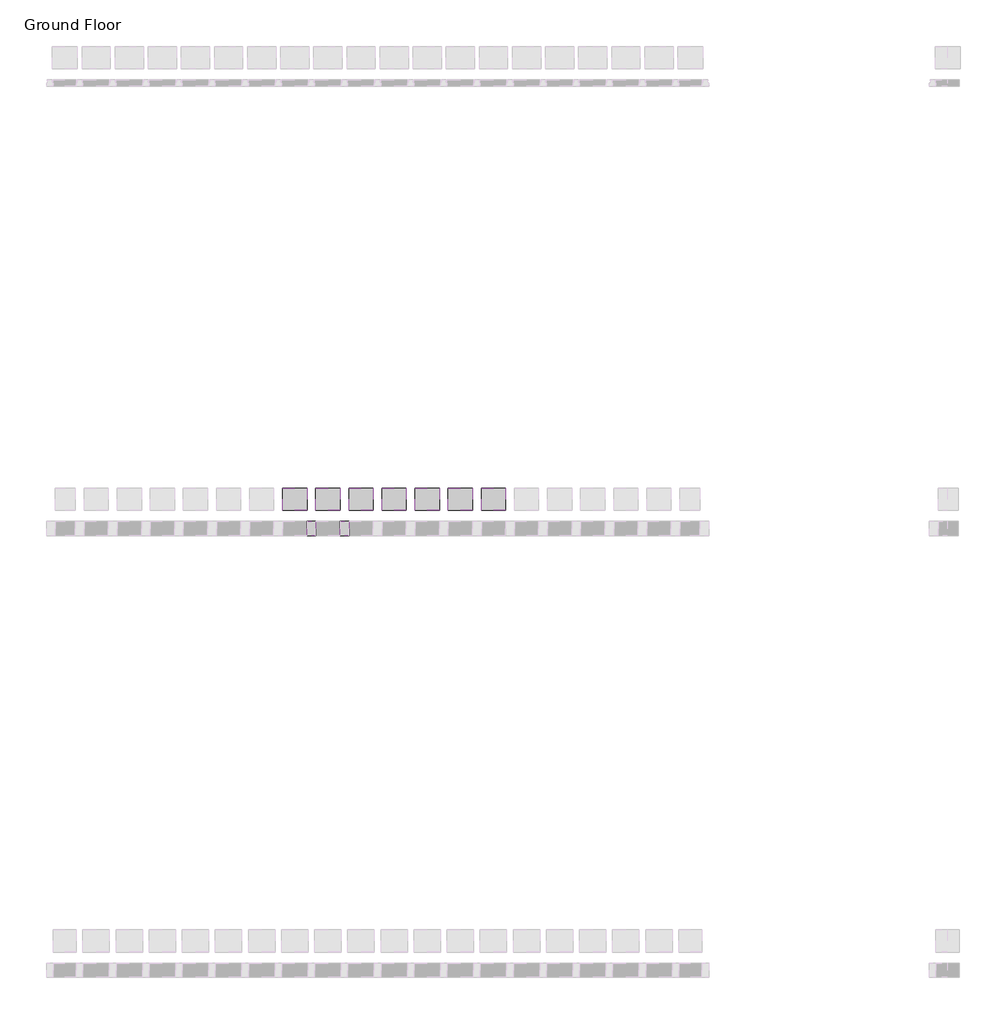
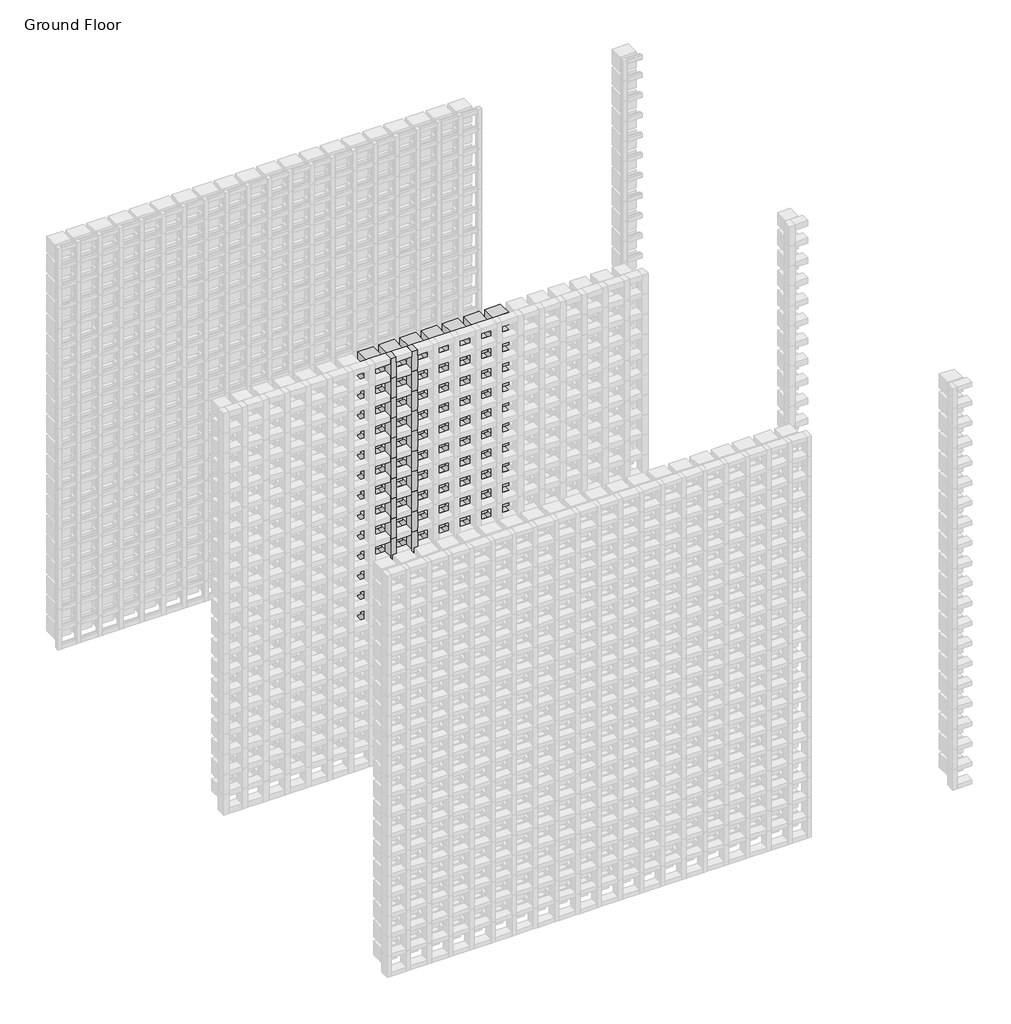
# One storey, part 83 of 350: 102 plates, 39 members.
"""IFC4 building model written with IfcOpenShell, lengths in millimetres."""

from ifc_helpers import new_model, si_unit, origin, place, context, project, spatial, transform, mapped, element, save
from components import rectangular_mullion_655930e9, empty_system_panel_empty_3b500fad, empty_system_panel_empty_1faefc6a

model = new_model("IFC4")

# Units and contexts
model_context = context("Model", 3, world=origin())
ifc_project = project(units=[si_unit("LENGTHUNIT", "METRE", prefix="MILLI")], contexts=[model_context])

# Site, building, storey
site = spatial("IfcSite", under=ifc_project)
building = spatial("IfcBuilding", under=site)
storey = spatial("IfcBuildingStorey", under=building, Name="Ground Floor", Elevation=0.0)

# Members
placement = place(None, origin())
rectangular_mullion_shape = rectangular_mullion_655930e9(model_context)
element("IfcMember", 1, ObjectType="Rectangular Mullion : Batten_Timber_Modinex_Austratus_Grid_Fascia_40x65_AlaskanYellowCedar", at=placement, inside=storey, context=model_context, shape_type="MappedRepresentation", body=[
    mapped(rectangular_mullion_shape, transform((3116.4361642, 40968.2978302, 150.0), x_axis=(1.0, 0.0, 0.0), y_axis=(0.0, -1.0, 0.0), z_axis=(0.0, 0.0, -1.0))),
])
element("IfcMember", 2, ObjectType="Rectangular Mullion : Batten_Timber_Modinex_Austratus_Grid_Fascia_40x65_AlaskanYellowCedar", at=placement, inside=storey, context=model_context, shape_type="MappedRepresentation", body=[
    mapped(rectangular_mullion_shape, transform((3116.4361642, 40968.2978302, 300.0), x_axis=(1.0, 0.0, 0.0), y_axis=(0.0, -1.0, 0.0), z_axis=(0.0, 0.0, -1.0))),
])
element("IfcMember", 3, ObjectType="Rectangular Mullion : Batten_Timber_Modinex_Austratus_Grid_Fascia_40x65_AlaskanYellowCedar", at=placement, inside=storey, context=model_context, shape_type="MappedRepresentation", body=[
    mapped(rectangular_mullion_shape, transform((3116.4361642, 40968.2978302, 450.0), x_axis=(1.0, 0.0, 0.0), y_axis=(0.0, -1.0, 0.0), z_axis=(0.0, 0.0, -1.0))),
])
element("IfcMember", 4, ObjectType="Rectangular Mullion : Batten_Timber_Modinex_Austratus_Grid_Fascia_40x65_AlaskanYellowCedar", at=placement, inside=storey, context=model_context, shape_type="MappedRepresentation", body=[
    mapped(rectangular_mullion_shape, transform((3116.4361642, 40968.2978302, 600.0), x_axis=(1.0, 0.0, 0.0), y_axis=(0.0, -1.0, 0.0), z_axis=(0.0, 0.0, -1.0))),
])
element("IfcMember", 5, ObjectType="Rectangular Mullion : Batten_Timber_Modinex_Austratus_Grid_Fascia_40x65_AlaskanYellowCedar", at=placement, inside=storey, context=model_context, shape_type="MappedRepresentation", body=[
    mapped(rectangular_mullion_shape, transform((3116.4361642, 40968.2978302, 750.0), x_axis=(1.0, 0.0, 0.0), y_axis=(0.0, -1.0, 0.0), z_axis=(0.0, 0.0, -1.0))),
])
element("IfcMember", 6, ObjectType="Rectangular Mullion : Batten_Timber_Modinex_Austratus_Grid_Fascia_40x65_AlaskanYellowCedar", at=placement, inside=storey, context=model_context, shape_type="MappedRepresentation", body=[
    mapped(rectangular_mullion_shape, transform((3116.4361642, 40968.2978302, 900.0), x_axis=(1.0, 0.0, 0.0), y_axis=(0.0, -1.0, 0.0), z_axis=(0.0, 0.0, -1.0))),
])
element("IfcMember", 7, ObjectType="Rectangular Mullion : Batten_Timber_Modinex_Austratus_Grid_Fascia_40x65_AlaskanYellowCedar", at=placement, inside=storey, context=model_context, shape_type="MappedRepresentation", body=[
    mapped(rectangular_mullion_shape, transform((3116.4361642, 40968.2978302, 1050.0), x_axis=(1.0, 0.0, 0.0), y_axis=(0.0, -1.0, 0.0), z_axis=(0.0, 0.0, -1.0))),
])
element("IfcMember", 8, ObjectType="Rectangular Mullion : Batten_Timber_Modinex_Austratus_Grid_Fascia_40x65_AlaskanYellowCedar", at=placement, inside=storey, context=model_context, shape_type="MappedRepresentation", body=[
    mapped(rectangular_mullion_shape, transform((3116.4361642, 40968.2978302, 1200.0), x_axis=(1.0, 0.0, 0.0), y_axis=(0.0, -1.0, 0.0), z_axis=(0.0, 0.0, -1.0))),
])
element("IfcMember", 9, ObjectType="Rectangular Mullion : Batten_Timber_Modinex_Austratus_Grid_Fascia_40x65_AlaskanYellowCedar", at=placement, inside=storey, context=model_context, shape_type="MappedRepresentation", body=[
    mapped(rectangular_mullion_shape, transform((3116.4361642, 40968.2978302, 1350.0), x_axis=(1.0, 0.0, 0.0), y_axis=(0.0, -1.0, 0.0), z_axis=(0.0, 0.0, -1.0))),
])
element("IfcMember", 10, ObjectType="Rectangular Mullion : Batten_Timber_Modinex_Austratus_Grid_Fascia_40x65_AlaskanYellowCedar", at=placement, inside=storey, context=model_context, shape_type="MappedRepresentation", body=[
    mapped(rectangular_mullion_shape, transform((3116.4361642, 40968.2978302, 1500.0), x_axis=(1.0, 0.0, 0.0), y_axis=(0.0, -1.0, 0.0), z_axis=(0.0, 0.0, -1.0))),
])
element("IfcMember", 11, ObjectType="Rectangular Mullion : Batten_Timber_Modinex_Austratus_Grid_Fascia_40x65_AlaskanYellowCedar", at=placement, inside=storey, context=model_context, shape_type="MappedRepresentation", body=[
    mapped(rectangular_mullion_shape, transform((3116.4361642, 40968.2978302, 1650.0), x_axis=(1.0, 0.0, 0.0), y_axis=(0.0, -1.0, 0.0), z_axis=(0.0, 0.0, -1.0))),
])
element("IfcMember", 12, ObjectType="Rectangular Mullion : Batten_Timber_Modinex_Austratus_Grid_Fascia_40x65_AlaskanYellowCedar", at=placement, inside=storey, context=model_context, shape_type="MappedRepresentation", body=[
    mapped(rectangular_mullion_shape, transform((3116.4361642, 40968.2978302, 1800.0), x_axis=(1.0, 0.0, 0.0), y_axis=(0.0, -1.0, 0.0), z_axis=(0.0, 0.0, -1.0))),
])
element("IfcMember", 13, ObjectType="Rectangular Mullion : Batten_Timber_Modinex_Austratus_Grid_Fascia_40x65_AlaskanYellowCedar", at=placement, inside=storey, context=model_context, shape_type="MappedRepresentation", body=[
    mapped(rectangular_mullion_shape, transform((3116.4361642, 40968.2978302, 1950.0), x_axis=(1.0, 0.0, 0.0), y_axis=(0.0, -1.0, 0.0), z_axis=(0.0, 0.0, -1.0))),
])
element("IfcMember", 14, ObjectType="Rectangular Mullion : Batten_Timber_Modinex_Austratus_Grid_Fascia_40x65_AlaskanYellowCedar", at=placement, inside=storey, context=model_context, shape_type="MappedRepresentation", body=[
    mapped(rectangular_mullion_shape, transform((3116.4361642, 40968.2978302, 2100.0), x_axis=(1.0, 0.0, 0.0), y_axis=(0.0, -1.0, 0.0), z_axis=(0.0, 0.0, -1.0))),
])
element("IfcMember", 15, ObjectType="Rectangular Mullion : Batten_Timber_Modinex_Austratus_Grid_Fascia_40x65_AlaskanYellowCedar", at=placement, inside=storey, context=model_context, shape_type="MappedRepresentation", body=[
    mapped(rectangular_mullion_shape, transform((3116.4361642, 40968.2978302, 2250.0), x_axis=(1.0, 0.0, 0.0), y_axis=(0.0, -1.0, 0.0), z_axis=(0.0, 0.0, -1.0))),
])
element("IfcMember", 16, ObjectType="Rectangular Mullion : Batten_Timber_Modinex_Austratus_Grid_Fascia_40x65_AlaskanYellowCedar", at=placement, inside=storey, context=model_context, shape_type="MappedRepresentation", body=[
    mapped(rectangular_mullion_shape, transform((3116.4361642, 40968.2978302, 2400.0), x_axis=(1.0, 0.0, 0.0), y_axis=(0.0, -1.0, 0.0), z_axis=(0.0, 0.0, -1.0))),
])
element("IfcMember", 17, ObjectType="Rectangular Mullion : Batten_Timber_Modinex_Austratus_Grid_Fascia_40x65_AlaskanYellowCedar", at=placement, inside=storey, context=model_context, shape_type="MappedRepresentation", body=[
    mapped(rectangular_mullion_shape, transform((3116.4361642, 40968.2978302, 2550.0), x_axis=(1.0, 0.0, 0.0), y_axis=(0.0, -1.0, 0.0), z_axis=(0.0, 0.0, -1.0))),
])
element("IfcMember", 18, ObjectType="Rectangular Mullion : Batten_Timber_Modinex_Austratus_Grid_Fascia_40x65_AlaskanYellowCedar", at=placement, inside=storey, context=model_context, shape_type="MappedRepresentation", body=[
    mapped(rectangular_mullion_shape, transform((3116.4361642, 40968.2978302, 2700.0), x_axis=(1.0, 0.0, 0.0), y_axis=(0.0, -1.0, 0.0), z_axis=(0.0, 0.0, -1.0))),
])
element("IfcMember", 19, ObjectType="Rectangular Mullion : Batten_Timber_Modinex_Austratus_Grid_Fascia_40x65_AlaskanYellowCedar", at=placement, inside=storey, context=model_context, shape_type="MappedRepresentation", body=[
    mapped(rectangular_mullion_shape, transform((3266.4361642, 40968.2978302, 150.0), x_axis=(1.0, 0.0, 0.0), y_axis=(0.0, -1.0, 0.0), z_axis=(0.0, 0.0, -1.0))),
])
element("IfcMember", 20, ObjectType="Rectangular Mullion : Batten_Timber_Modinex_Austratus_Grid_Fascia_40x65_AlaskanYellowCedar", at=placement, inside=storey, context=model_context, shape_type="MappedRepresentation", body=[
    mapped(rectangular_mullion_shape, transform((3266.4361642, 40968.2978302, 300.0), x_axis=(1.0, 0.0, 0.0), y_axis=(0.0, -1.0, 0.0), z_axis=(0.0, 0.0, -1.0))),
])
element("IfcMember", 21, ObjectType="Rectangular Mullion : Batten_Timber_Modinex_Austratus_Grid_Fascia_40x65_AlaskanYellowCedar", at=placement, inside=storey, context=model_context, shape_type="MappedRepresentation", body=[
    mapped(rectangular_mullion_shape, transform((3266.4361642, 40968.2978302, 450.0), x_axis=(1.0, 0.0, 0.0), y_axis=(0.0, -1.0, 0.0), z_axis=(0.0, 0.0, -1.0))),
])
element("IfcMember", 22, ObjectType="Rectangular Mullion : Batten_Timber_Modinex_Austratus_Grid_Fascia_40x65_AlaskanYellowCedar", at=placement, inside=storey, context=model_context, shape_type="MappedRepresentation", body=[
    mapped(rectangular_mullion_shape, transform((3266.4361642, 40968.2978302, 600.0), x_axis=(1.0, 0.0, 0.0), y_axis=(0.0, -1.0, 0.0), z_axis=(0.0, 0.0, -1.0))),
])
element("IfcMember", 23, ObjectType="Rectangular Mullion : Batten_Timber_Modinex_Austratus_Grid_Fascia_40x65_AlaskanYellowCedar", at=placement, inside=storey, context=model_context, shape_type="MappedRepresentation", body=[
    mapped(rectangular_mullion_shape, transform((3266.4361642, 40968.2978302, 750.0), x_axis=(1.0, 0.0, 0.0), y_axis=(0.0, -1.0, 0.0), z_axis=(0.0, 0.0, -1.0))),
])
element("IfcMember", 24, ObjectType="Rectangular Mullion : Batten_Timber_Modinex_Austratus_Grid_Fascia_40x65_AlaskanYellowCedar", at=placement, inside=storey, context=model_context, shape_type="MappedRepresentation", body=[
    mapped(rectangular_mullion_shape, transform((3266.4361642, 40968.2978302, 900.0), x_axis=(1.0, 0.0, 0.0), y_axis=(0.0, -1.0, 0.0), z_axis=(0.0, 0.0, -1.0))),
])
element("IfcMember", 25, ObjectType="Rectangular Mullion : Batten_Timber_Modinex_Austratus_Grid_Fascia_40x65_AlaskanYellowCedar", at=placement, inside=storey, context=model_context, shape_type="MappedRepresentation", body=[
    mapped(rectangular_mullion_shape, transform((3266.4361642, 40968.2978302, 1050.0), x_axis=(1.0, 0.0, 0.0), y_axis=(0.0, -1.0, 0.0), z_axis=(0.0, 0.0, -1.0))),
])
element("IfcMember", 26, ObjectType="Rectangular Mullion : Batten_Timber_Modinex_Austratus_Grid_Fascia_40x65_AlaskanYellowCedar", at=placement, inside=storey, context=model_context, shape_type="MappedRepresentation", body=[
    mapped(rectangular_mullion_shape, transform((3266.4361642, 40968.2978302, 1200.0), x_axis=(1.0, 0.0, 0.0), y_axis=(0.0, -1.0, 0.0), z_axis=(0.0, 0.0, -1.0))),
])
element("IfcMember", 27, ObjectType="Rectangular Mullion : Batten_Timber_Modinex_Austratus_Grid_Fascia_40x65_AlaskanYellowCedar", at=placement, inside=storey, context=model_context, shape_type="MappedRepresentation", body=[
    mapped(rectangular_mullion_shape, transform((3266.4361642, 40968.2978302, 1350.0), x_axis=(1.0, 0.0, 0.0), y_axis=(0.0, -1.0, 0.0), z_axis=(0.0, 0.0, -1.0))),
])
element("IfcMember", 28, ObjectType="Rectangular Mullion : Batten_Timber_Modinex_Austratus_Grid_Fascia_40x65_AlaskanYellowCedar", at=placement, inside=storey, context=model_context, shape_type="MappedRepresentation", body=[
    mapped(rectangular_mullion_shape, transform((3266.4361642, 40968.2978302, 1500.0), x_axis=(1.0, 0.0, 0.0), y_axis=(0.0, -1.0, 0.0), z_axis=(0.0, 0.0, -1.0))),
])
element("IfcMember", 29, ObjectType="Rectangular Mullion : Batten_Timber_Modinex_Austratus_Grid_Fascia_40x65_AlaskanYellowCedar", at=placement, inside=storey, context=model_context, shape_type="MappedRepresentation", body=[
    mapped(rectangular_mullion_shape, transform((3266.4361642, 40968.2978302, 1650.0), x_axis=(1.0, 0.0, 0.0), y_axis=(0.0, -1.0, 0.0), z_axis=(0.0, 0.0, -1.0))),
])
element("IfcMember", 30, ObjectType="Rectangular Mullion : Batten_Timber_Modinex_Austratus_Grid_Fascia_40x65_AlaskanYellowCedar", at=placement, inside=storey, context=model_context, shape_type="MappedRepresentation", body=[
    mapped(rectangular_mullion_shape, transform((3266.4361642, 40968.2978302, 1800.0), x_axis=(1.0, 0.0, 0.0), y_axis=(0.0, -1.0, 0.0), z_axis=(0.0, 0.0, -1.0))),
])
element("IfcMember", 31, ObjectType="Rectangular Mullion : Batten_Timber_Modinex_Austratus_Grid_Fascia_40x65_AlaskanYellowCedar", at=placement, inside=storey, context=model_context, shape_type="MappedRepresentation", body=[
    mapped(rectangular_mullion_shape, transform((3266.4361642, 40968.2978302, 1950.0), x_axis=(1.0, 0.0, 0.0), y_axis=(0.0, -1.0, 0.0), z_axis=(0.0, 0.0, -1.0))),
])
element("IfcMember", 32, ObjectType="Rectangular Mullion : Batten_Timber_Modinex_Austratus_Grid_Fascia_40x65_AlaskanYellowCedar", at=placement, inside=storey, context=model_context, shape_type="MappedRepresentation", body=[
    mapped(rectangular_mullion_shape, transform((3266.4361642, 40968.2978302, 2100.0), x_axis=(1.0, 0.0, 0.0), y_axis=(0.0, -1.0, 0.0), z_axis=(0.0, 0.0, -1.0))),
])
element("IfcMember", 33, ObjectType="Rectangular Mullion : Batten_Timber_Modinex_Austratus_Grid_Fascia_40x65_AlaskanYellowCedar", at=placement, inside=storey, context=model_context, shape_type="MappedRepresentation", body=[
    mapped(rectangular_mullion_shape, transform((3266.4361642, 40968.2978302, 2250.0), x_axis=(1.0, 0.0, 0.0), y_axis=(0.0, -1.0, 0.0), z_axis=(0.0, 0.0, -1.0))),
])
element("IfcMember", 34, ObjectType="Rectangular Mullion : Batten_Timber_Modinex_Austratus_Grid_Fascia_40x65_AlaskanYellowCedar", at=placement, inside=storey, context=model_context, shape_type="MappedRepresentation", body=[
    mapped(rectangular_mullion_shape, transform((3266.4361642, 40968.2978302, 2400.0), x_axis=(1.0, 0.0, 0.0), y_axis=(0.0, -1.0, 0.0), z_axis=(0.0, 0.0, -1.0))),
])
element("IfcMember", 35, ObjectType="Rectangular Mullion : Batten_Timber_Modinex_Austratus_Grid_Fascia_40x65_AlaskanYellowCedar", at=placement, inside=storey, context=model_context, shape_type="MappedRepresentation", body=[
    mapped(rectangular_mullion_shape, transform((3266.4361642, 40968.2978302, 2550.0), x_axis=(1.0, 0.0, 0.0), y_axis=(0.0, -1.0, 0.0), z_axis=(0.0, 0.0, -1.0))),
])
element("IfcMember", 36, ObjectType="Rectangular Mullion : Batten_Timber_Modinex_Austratus_Grid_Fascia_40x65_AlaskanYellowCedar", at=placement, inside=storey, context=model_context, shape_type="MappedRepresentation", body=[
    mapped(rectangular_mullion_shape, transform((3266.4361642, 40968.2978302, 2700.0), x_axis=(1.0, 0.0, 0.0), y_axis=(0.0, -1.0, 0.0), z_axis=(0.0, 0.0, -1.0))),
])
element("IfcMember", 37, ObjectType="Rectangular Mullion : Batten_Timber_Modinex_Austratus_Grid_Fascia_40x65_AlaskanYellowCedar", at=placement, inside=storey, context=model_context, shape_type="MappedRepresentation", body=[
    mapped(rectangular_mullion_shape, transform((3416.4361642, 40968.2978302, 150.0), x_axis=(1.0, 0.0, 0.0), y_axis=(0.0, -1.0, 0.0), z_axis=(0.0, 0.0, -1.0))),
])
element("IfcMember", 38, ObjectType="Rectangular Mullion : Batten_Timber_Modinex_Austratus_Grid_Fascia_40x65_AlaskanYellowCedar", at=placement, inside=storey, context=model_context, shape_type="MappedRepresentation", body=[
    mapped(rectangular_mullion_shape, transform((3116.4361642, 40968.2978302, 2850.0), x_axis=(1.0, 0.0, 0.0), y_axis=(0.0, -1.0, 0.0), z_axis=(0.0, 0.0, -1.0))),
])
element("IfcMember", 39, ObjectType="Rectangular Mullion : Batten_Timber_Modinex_Austratus_Grid_Fascia_40x65_AlaskanYellowCedar", at=placement, inside=storey, context=model_context, shape_type="MappedRepresentation", body=[
    mapped(rectangular_mullion_shape, transform((3266.4361642, 40968.2978302, 2850.0), x_axis=(1.0, 0.0, 0.0), y_axis=(0.0, -1.0, 0.0), z_axis=(0.0, 0.0, -1.0))),
])

# Plates
empty_system_panel_empty_shape = empty_system_panel_empty_3b500fad(model_context)
element("IfcPlate", 40, ObjectType="Empty System Panel : Empty", at=placement, inside=storey, context=model_context, shape_type="MappedRepresentation", body=[
    mapped(empty_system_panel_empty_shape, transform((3491.4361642, 40968.2978302, 770.0), x_axis=(1.0, 0.0, 0.0), y_axis=(0.0, 1.0, 0.0), z_axis=(0.0, 0.0, 1.0))),
])
element("IfcPlate", 41, ObjectType="Empty System Panel : Empty", at=placement, inside=storey, context=model_context, shape_type="MappedRepresentation", body=[
    mapped(empty_system_panel_empty_shape, transform((3641.4361642, 40968.2978302, 770.0), x_axis=(1.0, 0.0, 0.0), y_axis=(0.0, 1.0, 0.0), z_axis=(0.0, 0.0, 1.0))),
])
element("IfcPlate", 42, ObjectType="Empty System Panel : Empty", at=placement, inside=storey, context=model_context, shape_type="MappedRepresentation", body=[
    mapped(empty_system_panel_empty_shape, transform((3791.4361642, 40968.2978302, 770.0), x_axis=(1.0, 0.0, 0.0), y_axis=(0.0, 1.0, 0.0), z_axis=(0.0, 0.0, 1.0))),
])
element("IfcPlate", 43, ObjectType="Empty System Panel : Empty", at=placement, inside=storey, context=model_context, shape_type="MappedRepresentation", body=[
    mapped(empty_system_panel_empty_shape, transform((3941.4361642, 40968.2978302, 770.0), x_axis=(1.0, 0.0, 0.0), y_axis=(0.0, 1.0, 0.0), z_axis=(0.0, 0.0, 1.0))),
])
element("IfcPlate", 44, ObjectType="Empty System Panel : Empty", at=placement, inside=storey, context=model_context, shape_type="MappedRepresentation", body=[
    mapped(empty_system_panel_empty_shape, transform((3041.4361642, 40968.2978302, 920.0), x_axis=(1.0, 0.0, 0.0), y_axis=(0.0, 1.0, 0.0), z_axis=(0.0, 0.0, 1.0))),
])
element("IfcPlate", 45, ObjectType="Empty System Panel : Empty", at=placement, inside=storey, context=model_context, shape_type="MappedRepresentation", body=[
    mapped(empty_system_panel_empty_shape, transform((3191.4361642, 40968.2978302, 920.0), x_axis=(1.0, 0.0, 0.0), y_axis=(0.0, 1.0, 0.0), z_axis=(0.0, 0.0, 1.0))),
])
element("IfcPlate", 46, ObjectType="Empty System Panel : Empty", at=placement, inside=storey, context=model_context, shape_type="MappedRepresentation", body=[
    mapped(empty_system_panel_empty_shape, transform((3341.4361642, 40968.2978302, 920.0), x_axis=(1.0, 0.0, 0.0), y_axis=(0.0, 1.0, 0.0), z_axis=(0.0, 0.0, 1.0))),
])
element("IfcPlate", 47, ObjectType="Empty System Panel : Empty", at=placement, inside=storey, context=model_context, shape_type="MappedRepresentation", body=[
    mapped(empty_system_panel_empty_shape, transform((3491.4361642, 40968.2978302, 920.0), x_axis=(1.0, 0.0, 0.0), y_axis=(0.0, 1.0, 0.0), z_axis=(0.0, 0.0, 1.0))),
])
element("IfcPlate", 48, ObjectType="Empty System Panel : Empty", at=placement, inside=storey, context=model_context, shape_type="MappedRepresentation", body=[
    mapped(empty_system_panel_empty_shape, transform((3641.4361642, 40968.2978302, 920.0), x_axis=(1.0, 0.0, 0.0), y_axis=(0.0, 1.0, 0.0), z_axis=(0.0, 0.0, 1.0))),
])
element("IfcPlate", 49, ObjectType="Empty System Panel : Empty", at=placement, inside=storey, context=model_context, shape_type="MappedRepresentation", body=[
    mapped(empty_system_panel_empty_shape, transform((3791.4361642, 40968.2978302, 920.0), x_axis=(1.0, 0.0, 0.0), y_axis=(0.0, 1.0, 0.0), z_axis=(0.0, 0.0, 1.0))),
])
element("IfcPlate", 50, ObjectType="Empty System Panel : Empty", at=placement, inside=storey, context=model_context, shape_type="MappedRepresentation", body=[
    mapped(empty_system_panel_empty_shape, transform((3941.4361642, 40968.2978302, 920.0), x_axis=(1.0, 0.0, 0.0), y_axis=(0.0, 1.0, 0.0), z_axis=(0.0, 0.0, 1.0))),
])
element("IfcPlate", 51, ObjectType="Empty System Panel : Empty", at=placement, inside=storey, context=model_context, shape_type="MappedRepresentation", body=[
    mapped(empty_system_panel_empty_shape, transform((3041.4361642, 40968.2978302, 1070.0), x_axis=(1.0, 0.0, 0.0), y_axis=(0.0, 1.0, 0.0), z_axis=(0.0, 0.0, 1.0))),
])
element("IfcPlate", 52, ObjectType="Empty System Panel : Empty", at=placement, inside=storey, context=model_context, shape_type="MappedRepresentation", body=[
    mapped(empty_system_panel_empty_shape, transform((3191.4361642, 40968.2978302, 1070.0), x_axis=(1.0, 0.0, 0.0), y_axis=(0.0, 1.0, 0.0), z_axis=(0.0, 0.0, 1.0))),
])
element("IfcPlate", 53, ObjectType="Empty System Panel : Empty", at=placement, inside=storey, context=model_context, shape_type="MappedRepresentation", body=[
    mapped(empty_system_panel_empty_shape, transform((3341.4361642, 40968.2978302, 1070.0), x_axis=(1.0, 0.0, 0.0), y_axis=(0.0, 1.0, 0.0), z_axis=(0.0, 0.0, 1.0))),
])
element("IfcPlate", 54, ObjectType="Empty System Panel : Empty", at=placement, inside=storey, context=model_context, shape_type="MappedRepresentation", body=[
    mapped(empty_system_panel_empty_shape, transform((3491.4361642, 40968.2978302, 1070.0), x_axis=(1.0, 0.0, 0.0), y_axis=(0.0, 1.0, 0.0), z_axis=(0.0, 0.0, 1.0))),
])
element("IfcPlate", 55, ObjectType="Empty System Panel : Empty", at=placement, inside=storey, context=model_context, shape_type="MappedRepresentation", body=[
    mapped(empty_system_panel_empty_shape, transform((3641.4361642, 40968.2978302, 1070.0), x_axis=(1.0, 0.0, 0.0), y_axis=(0.0, 1.0, 0.0), z_axis=(0.0, 0.0, 1.0))),
])
element("IfcPlate", 56, ObjectType="Empty System Panel : Empty", at=placement, inside=storey, context=model_context, shape_type="MappedRepresentation", body=[
    mapped(empty_system_panel_empty_shape, transform((3791.4361642, 40968.2978302, 1070.0), x_axis=(1.0, 0.0, 0.0), y_axis=(0.0, 1.0, 0.0), z_axis=(0.0, 0.0, 1.0))),
])
element("IfcPlate", 57, ObjectType="Empty System Panel : Empty", at=placement, inside=storey, context=model_context, shape_type="MappedRepresentation", body=[
    mapped(empty_system_panel_empty_shape, transform((3941.4361642, 40968.2978302, 1070.0), x_axis=(1.0, 0.0, 0.0), y_axis=(0.0, 1.0, 0.0), z_axis=(0.0, 0.0, 1.0))),
])
element("IfcPlate", 58, ObjectType="Empty System Panel : Empty", at=placement, inside=storey, context=model_context, shape_type="MappedRepresentation", body=[
    mapped(empty_system_panel_empty_shape, transform((3041.4361642, 40968.2978302, 1220.0), x_axis=(1.0, 0.0, 0.0), y_axis=(0.0, 1.0, 0.0), z_axis=(0.0, 0.0, 1.0))),
])
element("IfcPlate", 59, ObjectType="Empty System Panel : Empty", at=placement, inside=storey, context=model_context, shape_type="MappedRepresentation", body=[
    mapped(empty_system_panel_empty_shape, transform((3191.4361642, 40968.2978302, 1220.0), x_axis=(1.0, 0.0, 0.0), y_axis=(0.0, 1.0, 0.0), z_axis=(0.0, 0.0, 1.0))),
])
element("IfcPlate", 60, ObjectType="Empty System Panel : Empty", at=placement, inside=storey, context=model_context, shape_type="MappedRepresentation", body=[
    mapped(empty_system_panel_empty_shape, transform((3341.4361642, 40968.2978302, 1220.0), x_axis=(1.0, 0.0, 0.0), y_axis=(0.0, 1.0, 0.0), z_axis=(0.0, 0.0, 1.0))),
])
element("IfcPlate", 61, ObjectType="Empty System Panel : Empty", at=placement, inside=storey, context=model_context, shape_type="MappedRepresentation", body=[
    mapped(empty_system_panel_empty_shape, transform((3491.4361642, 40968.2978302, 1220.0), x_axis=(1.0, 0.0, 0.0), y_axis=(0.0, 1.0, 0.0), z_axis=(0.0, 0.0, 1.0))),
])
element("IfcPlate", 62, ObjectType="Empty System Panel : Empty", at=placement, inside=storey, context=model_context, shape_type="MappedRepresentation", body=[
    mapped(empty_system_panel_empty_shape, transform((3641.4361642, 40968.2978302, 1220.0), x_axis=(1.0, 0.0, 0.0), y_axis=(0.0, 1.0, 0.0), z_axis=(0.0, 0.0, 1.0))),
])
element("IfcPlate", 63, ObjectType="Empty System Panel : Empty", at=placement, inside=storey, context=model_context, shape_type="MappedRepresentation", body=[
    mapped(empty_system_panel_empty_shape, transform((3791.4361642, 40968.2978302, 1220.0), x_axis=(1.0, 0.0, 0.0), y_axis=(0.0, 1.0, 0.0), z_axis=(0.0, 0.0, 1.0))),
])
element("IfcPlate", 64, ObjectType="Empty System Panel : Empty", at=placement, inside=storey, context=model_context, shape_type="MappedRepresentation", body=[
    mapped(empty_system_panel_empty_shape, transform((3941.4361642, 40968.2978302, 1220.0), x_axis=(1.0, 0.0, 0.0), y_axis=(0.0, 1.0, 0.0), z_axis=(0.0, 0.0, 1.0))),
])
element("IfcPlate", 65, ObjectType="Empty System Panel : Empty", at=placement, inside=storey, context=model_context, shape_type="MappedRepresentation", body=[
    mapped(empty_system_panel_empty_shape, transform((3041.4361642, 40968.2978302, 1370.0), x_axis=(1.0, 0.0, 0.0), y_axis=(0.0, 1.0, 0.0), z_axis=(0.0, 0.0, 1.0))),
])
element("IfcPlate", 66, ObjectType="Empty System Panel : Empty", at=placement, inside=storey, context=model_context, shape_type="MappedRepresentation", body=[
    mapped(empty_system_panel_empty_shape, transform((3191.4361642, 40968.2978302, 1370.0), x_axis=(1.0, 0.0, 0.0), y_axis=(0.0, 1.0, 0.0), z_axis=(0.0, 0.0, 1.0))),
])
element("IfcPlate", 67, ObjectType="Empty System Panel : Empty", at=placement, inside=storey, context=model_context, shape_type="MappedRepresentation", body=[
    mapped(empty_system_panel_empty_shape, transform((3341.4361642, 40968.2978302, 1370.0), x_axis=(1.0, 0.0, 0.0), y_axis=(0.0, 1.0, 0.0), z_axis=(0.0, 0.0, 1.0))),
])
element("IfcPlate", 68, ObjectType="Empty System Panel : Empty", at=placement, inside=storey, context=model_context, shape_type="MappedRepresentation", body=[
    mapped(empty_system_panel_empty_shape, transform((3491.4361642, 40968.2978302, 1370.0), x_axis=(1.0, 0.0, 0.0), y_axis=(0.0, 1.0, 0.0), z_axis=(0.0, 0.0, 1.0))),
])
element("IfcPlate", 69, ObjectType="Empty System Panel : Empty", at=placement, inside=storey, context=model_context, shape_type="MappedRepresentation", body=[
    mapped(empty_system_panel_empty_shape, transform((3641.4361642, 40968.2978302, 1370.0), x_axis=(1.0, 0.0, 0.0), y_axis=(0.0, 1.0, 0.0), z_axis=(0.0, 0.0, 1.0))),
])
element("IfcPlate", 70, ObjectType="Empty System Panel : Empty", at=placement, inside=storey, context=model_context, shape_type="MappedRepresentation", body=[
    mapped(empty_system_panel_empty_shape, transform((3791.4361642, 40968.2978302, 1370.0), x_axis=(1.0, 0.0, 0.0), y_axis=(0.0, 1.0, 0.0), z_axis=(0.0, 0.0, 1.0))),
])
element("IfcPlate", 71, ObjectType="Empty System Panel : Empty", at=placement, inside=storey, context=model_context, shape_type="MappedRepresentation", body=[
    mapped(empty_system_panel_empty_shape, transform((3941.4361642, 40968.2978302, 1370.0), x_axis=(1.0, 0.0, 0.0), y_axis=(0.0, 1.0, 0.0), z_axis=(0.0, 0.0, 1.0))),
])
element("IfcPlate", 72, ObjectType="Empty System Panel : Empty", at=placement, inside=storey, context=model_context, shape_type="MappedRepresentation", body=[
    mapped(empty_system_panel_empty_shape, transform((3041.4361642, 40968.2978302, 1520.0), x_axis=(1.0, 0.0, 0.0), y_axis=(0.0, 1.0, 0.0), z_axis=(0.0, 0.0, 1.0))),
])
element("IfcPlate", 73, ObjectType="Empty System Panel : Empty", at=placement, inside=storey, context=model_context, shape_type="MappedRepresentation", body=[
    mapped(empty_system_panel_empty_shape, transform((3191.4361642, 40968.2978302, 1520.0), x_axis=(1.0, 0.0, 0.0), y_axis=(0.0, 1.0, 0.0), z_axis=(0.0, 0.0, 1.0))),
])
element("IfcPlate", 74, ObjectType="Empty System Panel : Empty", at=placement, inside=storey, context=model_context, shape_type="MappedRepresentation", body=[
    mapped(empty_system_panel_empty_shape, transform((3341.4361642, 40968.2978302, 1520.0), x_axis=(1.0, 0.0, 0.0), y_axis=(0.0, 1.0, 0.0), z_axis=(0.0, 0.0, 1.0))),
])
element("IfcPlate", 75, ObjectType="Empty System Panel : Empty", at=placement, inside=storey, context=model_context, shape_type="MappedRepresentation", body=[
    mapped(empty_system_panel_empty_shape, transform((3491.4361642, 40968.2978302, 1520.0), x_axis=(1.0, 0.0, 0.0), y_axis=(0.0, 1.0, 0.0), z_axis=(0.0, 0.0, 1.0))),
])
element("IfcPlate", 76, ObjectType="Empty System Panel : Empty", at=placement, inside=storey, context=model_context, shape_type="MappedRepresentation", body=[
    mapped(empty_system_panel_empty_shape, transform((3641.4361642, 40968.2978302, 1520.0), x_axis=(1.0, 0.0, 0.0), y_axis=(0.0, 1.0, 0.0), z_axis=(0.0, 0.0, 1.0))),
])
element("IfcPlate", 77, ObjectType="Empty System Panel : Empty", at=placement, inside=storey, context=model_context, shape_type="MappedRepresentation", body=[
    mapped(empty_system_panel_empty_shape, transform((3791.4361642, 40968.2978302, 1520.0), x_axis=(1.0, 0.0, 0.0), y_axis=(0.0, 1.0, 0.0), z_axis=(0.0, 0.0, 1.0))),
])
element("IfcPlate", 78, ObjectType="Empty System Panel : Empty", at=placement, inside=storey, context=model_context, shape_type="MappedRepresentation", body=[
    mapped(empty_system_panel_empty_shape, transform((3941.4361642, 40968.2978302, 1520.0), x_axis=(1.0, 0.0, 0.0), y_axis=(0.0, 1.0, 0.0), z_axis=(0.0, 0.0, 1.0))),
])
element("IfcPlate", 79, ObjectType="Empty System Panel : Empty", at=placement, inside=storey, context=model_context, shape_type="MappedRepresentation", body=[
    mapped(empty_system_panel_empty_shape, transform((3041.4361642, 40968.2978302, 1670.0), x_axis=(1.0, 0.0, 0.0), y_axis=(0.0, 1.0, 0.0), z_axis=(0.0, 0.0, 1.0))),
])
element("IfcPlate", 80, ObjectType="Empty System Panel : Empty", at=placement, inside=storey, context=model_context, shape_type="MappedRepresentation", body=[
    mapped(empty_system_panel_empty_shape, transform((3191.4361642, 40968.2978302, 1670.0), x_axis=(1.0, 0.0, 0.0), y_axis=(0.0, 1.0, 0.0), z_axis=(0.0, 0.0, 1.0))),
])
element("IfcPlate", 81, ObjectType="Empty System Panel : Empty", at=placement, inside=storey, context=model_context, shape_type="MappedRepresentation", body=[
    mapped(empty_system_panel_empty_shape, transform((3341.4361642, 40968.2978302, 1670.0), x_axis=(1.0, 0.0, 0.0), y_axis=(0.0, 1.0, 0.0), z_axis=(0.0, 0.0, 1.0))),
])
element("IfcPlate", 82, ObjectType="Empty System Panel : Empty", at=placement, inside=storey, context=model_context, shape_type="MappedRepresentation", body=[
    mapped(empty_system_panel_empty_shape, transform((3491.4361642, 40968.2978302, 1670.0), x_axis=(1.0, 0.0, 0.0), y_axis=(0.0, 1.0, 0.0), z_axis=(0.0, 0.0, 1.0))),
])
element("IfcPlate", 83, ObjectType="Empty System Panel : Empty", at=placement, inside=storey, context=model_context, shape_type="MappedRepresentation", body=[
    mapped(empty_system_panel_empty_shape, transform((3641.4361642, 40968.2978302, 1670.0), x_axis=(1.0, 0.0, 0.0), y_axis=(0.0, 1.0, 0.0), z_axis=(0.0, 0.0, 1.0))),
])
element("IfcPlate", 84, ObjectType="Empty System Panel : Empty", at=placement, inside=storey, context=model_context, shape_type="MappedRepresentation", body=[
    mapped(empty_system_panel_empty_shape, transform((3791.4361642, 40968.2978302, 1670.0), x_axis=(1.0, 0.0, 0.0), y_axis=(0.0, 1.0, 0.0), z_axis=(0.0, 0.0, 1.0))),
])
element("IfcPlate", 85, ObjectType="Empty System Panel : Empty", at=placement, inside=storey, context=model_context, shape_type="MappedRepresentation", body=[
    mapped(empty_system_panel_empty_shape, transform((3941.4361642, 40968.2978302, 1670.0), x_axis=(1.0, 0.0, 0.0), y_axis=(0.0, 1.0, 0.0), z_axis=(0.0, 0.0, 1.0))),
])
element("IfcPlate", 86, ObjectType="Empty System Panel : Empty", at=placement, inside=storey, context=model_context, shape_type="MappedRepresentation", body=[
    mapped(empty_system_panel_empty_shape, transform((3041.4361642, 40968.2978302, 1820.0), x_axis=(1.0, 0.0, 0.0), y_axis=(0.0, 1.0, 0.0), z_axis=(0.0, 0.0, 1.0))),
])
element("IfcPlate", 87, ObjectType="Empty System Panel : Empty", at=placement, inside=storey, context=model_context, shape_type="MappedRepresentation", body=[
    mapped(empty_system_panel_empty_shape, transform((3191.4361642, 40968.2978302, 1820.0), x_axis=(1.0, 0.0, 0.0), y_axis=(0.0, 1.0, 0.0), z_axis=(0.0, 0.0, 1.0))),
])
element("IfcPlate", 88, ObjectType="Empty System Panel : Empty", at=placement, inside=storey, context=model_context, shape_type="MappedRepresentation", body=[
    mapped(empty_system_panel_empty_shape, transform((3341.4361642, 40968.2978302, 1820.0), x_axis=(1.0, 0.0, 0.0), y_axis=(0.0, 1.0, 0.0), z_axis=(0.0, 0.0, 1.0))),
])
element("IfcPlate", 89, ObjectType="Empty System Panel : Empty", at=placement, inside=storey, context=model_context, shape_type="MappedRepresentation", body=[
    mapped(empty_system_panel_empty_shape, transform((3491.4361642, 40968.2978302, 1820.0), x_axis=(1.0, 0.0, 0.0), y_axis=(0.0, 1.0, 0.0), z_axis=(0.0, 0.0, 1.0))),
])
element("IfcPlate", 90, ObjectType="Empty System Panel : Empty", at=placement, inside=storey, context=model_context, shape_type="MappedRepresentation", body=[
    mapped(empty_system_panel_empty_shape, transform((3641.4361642, 40968.2978302, 1820.0), x_axis=(1.0, 0.0, 0.0), y_axis=(0.0, 1.0, 0.0), z_axis=(0.0, 0.0, 1.0))),
])
element("IfcPlate", 91, ObjectType="Empty System Panel : Empty", at=placement, inside=storey, context=model_context, shape_type="MappedRepresentation", body=[
    mapped(empty_system_panel_empty_shape, transform((3791.4361642, 40968.2978302, 1820.0), x_axis=(1.0, 0.0, 0.0), y_axis=(0.0, 1.0, 0.0), z_axis=(0.0, 0.0, 1.0))),
])
element("IfcPlate", 92, ObjectType="Empty System Panel : Empty", at=placement, inside=storey, context=model_context, shape_type="MappedRepresentation", body=[
    mapped(empty_system_panel_empty_shape, transform((3941.4361642, 40968.2978302, 1820.0), x_axis=(1.0, 0.0, 0.0), y_axis=(0.0, 1.0, 0.0), z_axis=(0.0, 0.0, 1.0))),
])
element("IfcPlate", 93, ObjectType="Empty System Panel : Empty", at=placement, inside=storey, context=model_context, shape_type="MappedRepresentation", body=[
    mapped(empty_system_panel_empty_shape, transform((3041.4361642, 40968.2978302, 1970.0), x_axis=(1.0, 0.0, 0.0), y_axis=(0.0, 1.0, 0.0), z_axis=(0.0, 0.0, 1.0))),
])
element("IfcPlate", 94, ObjectType="Empty System Panel : Empty", at=placement, inside=storey, context=model_context, shape_type="MappedRepresentation", body=[
    mapped(empty_system_panel_empty_shape, transform((3191.4361642, 40968.2978302, 1970.0), x_axis=(1.0, 0.0, 0.0), y_axis=(0.0, 1.0, 0.0), z_axis=(0.0, 0.0, 1.0))),
])
element("IfcPlate", 95, ObjectType="Empty System Panel : Empty", at=placement, inside=storey, context=model_context, shape_type="MappedRepresentation", body=[
    mapped(empty_system_panel_empty_shape, transform((3341.4361642, 40968.2978302, 1970.0), x_axis=(1.0, 0.0, 0.0), y_axis=(0.0, 1.0, 0.0), z_axis=(0.0, 0.0, 1.0))),
])
element("IfcPlate", 96, ObjectType="Empty System Panel : Empty", at=placement, inside=storey, context=model_context, shape_type="MappedRepresentation", body=[
    mapped(empty_system_panel_empty_shape, transform((3491.4361642, 40968.2978302, 1970.0), x_axis=(1.0, 0.0, 0.0), y_axis=(0.0, 1.0, 0.0), z_axis=(0.0, 0.0, 1.0))),
])
element("IfcPlate", 97, ObjectType="Empty System Panel : Empty", at=placement, inside=storey, context=model_context, shape_type="MappedRepresentation", body=[
    mapped(empty_system_panel_empty_shape, transform((3641.4361642, 40968.2978302, 1970.0), x_axis=(1.0, 0.0, 0.0), y_axis=(0.0, 1.0, 0.0), z_axis=(0.0, 0.0, 1.0))),
])
element("IfcPlate", 98, ObjectType="Empty System Panel : Empty", at=placement, inside=storey, context=model_context, shape_type="MappedRepresentation", body=[
    mapped(empty_system_panel_empty_shape, transform((3791.4361642, 40968.2978302, 1970.0), x_axis=(1.0, 0.0, 0.0), y_axis=(0.0, 1.0, 0.0), z_axis=(0.0, 0.0, 1.0))),
])
element("IfcPlate", 99, ObjectType="Empty System Panel : Empty", at=placement, inside=storey, context=model_context, shape_type="MappedRepresentation", body=[
    mapped(empty_system_panel_empty_shape, transform((3941.4361642, 40968.2978302, 1970.0), x_axis=(1.0, 0.0, 0.0), y_axis=(0.0, 1.0, 0.0), z_axis=(0.0, 0.0, 1.0))),
])
element("IfcPlate", 100, ObjectType="Empty System Panel : Empty", at=placement, inside=storey, context=model_context, shape_type="MappedRepresentation", body=[
    mapped(empty_system_panel_empty_shape, transform((3041.4361642, 40968.2978302, 2120.0), x_axis=(1.0, 0.0, 0.0), y_axis=(0.0, 1.0, 0.0), z_axis=(0.0, 0.0, 1.0))),
])
element("IfcPlate", 101, ObjectType="Empty System Panel : Empty", at=placement, inside=storey, context=model_context, shape_type="MappedRepresentation", body=[
    mapped(empty_system_panel_empty_shape, transform((3191.4361642, 40968.2978302, 2120.0), x_axis=(1.0, 0.0, 0.0), y_axis=(0.0, 1.0, 0.0), z_axis=(0.0, 0.0, 1.0))),
])
element("IfcPlate", 102, ObjectType="Empty System Panel : Empty", at=placement, inside=storey, context=model_context, shape_type="MappedRepresentation", body=[
    mapped(empty_system_panel_empty_shape, transform((3341.4361642, 40968.2978302, 2120.0), x_axis=(1.0, 0.0, 0.0), y_axis=(0.0, 1.0, 0.0), z_axis=(0.0, 0.0, 1.0))),
])
element("IfcPlate", 103, ObjectType="Empty System Panel : Empty", at=placement, inside=storey, context=model_context, shape_type="MappedRepresentation", body=[
    mapped(empty_system_panel_empty_shape, transform((3491.4361642, 40968.2978302, 2120.0), x_axis=(1.0, 0.0, 0.0), y_axis=(0.0, 1.0, 0.0), z_axis=(0.0, 0.0, 1.0))),
])
element("IfcPlate", 104, ObjectType="Empty System Panel : Empty", at=placement, inside=storey, context=model_context, shape_type="MappedRepresentation", body=[
    mapped(empty_system_panel_empty_shape, transform((3641.4361642, 40968.2978302, 2120.0), x_axis=(1.0, 0.0, 0.0), y_axis=(0.0, 1.0, 0.0), z_axis=(0.0, 0.0, 1.0))),
])
element("IfcPlate", 105, ObjectType="Empty System Panel : Empty", at=placement, inside=storey, context=model_context, shape_type="MappedRepresentation", body=[
    mapped(empty_system_panel_empty_shape, transform((3791.4361642, 40968.2978302, 2120.0), x_axis=(1.0, 0.0, 0.0), y_axis=(0.0, 1.0, 0.0), z_axis=(0.0, 0.0, 1.0))),
])
element("IfcPlate", 106, ObjectType="Empty System Panel : Empty", at=placement, inside=storey, context=model_context, shape_type="MappedRepresentation", body=[
    mapped(empty_system_panel_empty_shape, transform((3941.4361642, 40968.2978302, 2120.0), x_axis=(1.0, 0.0, 0.0), y_axis=(0.0, 1.0, 0.0), z_axis=(0.0, 0.0, 1.0))),
])
element("IfcPlate", 107, ObjectType="Empty System Panel : Empty", at=placement, inside=storey, context=model_context, shape_type="MappedRepresentation", body=[
    mapped(empty_system_panel_empty_shape, transform((3041.4361642, 40968.2978302, 2270.0), x_axis=(1.0, 0.0, 0.0), y_axis=(0.0, 1.0, 0.0), z_axis=(0.0, 0.0, 1.0))),
])
element("IfcPlate", 108, ObjectType="Empty System Panel : Empty", at=placement, inside=storey, context=model_context, shape_type="MappedRepresentation", body=[
    mapped(empty_system_panel_empty_shape, transform((3191.4361642, 40968.2978302, 2270.0), x_axis=(1.0, 0.0, 0.0), y_axis=(0.0, 1.0, 0.0), z_axis=(0.0, 0.0, 1.0))),
])
element("IfcPlate", 109, ObjectType="Empty System Panel : Empty", at=placement, inside=storey, context=model_context, shape_type="MappedRepresentation", body=[
    mapped(empty_system_panel_empty_shape, transform((3341.4361642, 40968.2978302, 2270.0), x_axis=(1.0, 0.0, 0.0), y_axis=(0.0, 1.0, 0.0), z_axis=(0.0, 0.0, 1.0))),
])
element("IfcPlate", 110, ObjectType="Empty System Panel : Empty", at=placement, inside=storey, context=model_context, shape_type="MappedRepresentation", body=[
    mapped(empty_system_panel_empty_shape, transform((3491.4361642, 40968.2978302, 2270.0), x_axis=(1.0, 0.0, 0.0), y_axis=(0.0, 1.0, 0.0), z_axis=(0.0, 0.0, 1.0))),
])
element("IfcPlate", 111, ObjectType="Empty System Panel : Empty", at=placement, inside=storey, context=model_context, shape_type="MappedRepresentation", body=[
    mapped(empty_system_panel_empty_shape, transform((3641.4361642, 40968.2978302, 2270.0), x_axis=(1.0, 0.0, 0.0), y_axis=(0.0, 1.0, 0.0), z_axis=(0.0, 0.0, 1.0))),
])
element("IfcPlate", 112, ObjectType="Empty System Panel : Empty", at=placement, inside=storey, context=model_context, shape_type="MappedRepresentation", body=[
    mapped(empty_system_panel_empty_shape, transform((3791.4361642, 40968.2978302, 2270.0), x_axis=(1.0, 0.0, 0.0), y_axis=(0.0, 1.0, 0.0), z_axis=(0.0, 0.0, 1.0))),
])
element("IfcPlate", 113, ObjectType="Empty System Panel : Empty", at=placement, inside=storey, context=model_context, shape_type="MappedRepresentation", body=[
    mapped(empty_system_panel_empty_shape, transform((3941.4361642, 40968.2978302, 2270.0), x_axis=(1.0, 0.0, 0.0), y_axis=(0.0, 1.0, 0.0), z_axis=(0.0, 0.0, 1.0))),
])
element("IfcPlate", 114, ObjectType="Empty System Panel : Empty", at=placement, inside=storey, context=model_context, shape_type="MappedRepresentation", body=[
    mapped(empty_system_panel_empty_shape, transform((3041.4361642, 40968.2978302, 2420.0), x_axis=(1.0, 0.0, 0.0), y_axis=(0.0, 1.0, 0.0), z_axis=(0.0, 0.0, 1.0))),
])
element("IfcPlate", 115, ObjectType="Empty System Panel : Empty", at=placement, inside=storey, context=model_context, shape_type="MappedRepresentation", body=[
    mapped(empty_system_panel_empty_shape, transform((3191.4361642, 40968.2978302, 2420.0), x_axis=(1.0, 0.0, 0.0), y_axis=(0.0, 1.0, 0.0), z_axis=(0.0, 0.0, 1.0))),
])
element("IfcPlate", 116, ObjectType="Empty System Panel : Empty", at=placement, inside=storey, context=model_context, shape_type="MappedRepresentation", body=[
    mapped(empty_system_panel_empty_shape, transform((3341.4361642, 40968.2978302, 2420.0), x_axis=(1.0, 0.0, 0.0), y_axis=(0.0, 1.0, 0.0), z_axis=(0.0, 0.0, 1.0))),
])
element("IfcPlate", 117, ObjectType="Empty System Panel : Empty", at=placement, inside=storey, context=model_context, shape_type="MappedRepresentation", body=[
    mapped(empty_system_panel_empty_shape, transform((3491.4361642, 40968.2978302, 2420.0), x_axis=(1.0, 0.0, 0.0), y_axis=(0.0, 1.0, 0.0), z_axis=(0.0, 0.0, 1.0))),
])
element("IfcPlate", 118, ObjectType="Empty System Panel : Empty", at=placement, inside=storey, context=model_context, shape_type="MappedRepresentation", body=[
    mapped(empty_system_panel_empty_shape, transform((3641.4361642, 40968.2978302, 2420.0), x_axis=(1.0, 0.0, 0.0), y_axis=(0.0, 1.0, 0.0), z_axis=(0.0, 0.0, 1.0))),
])
element("IfcPlate", 119, ObjectType="Empty System Panel : Empty", at=placement, inside=storey, context=model_context, shape_type="MappedRepresentation", body=[
    mapped(empty_system_panel_empty_shape, transform((3791.4361642, 40968.2978302, 2420.0), x_axis=(1.0, 0.0, 0.0), y_axis=(0.0, 1.0, 0.0), z_axis=(0.0, 0.0, 1.0))),
])
element("IfcPlate", 120, ObjectType="Empty System Panel : Empty", at=placement, inside=storey, context=model_context, shape_type="MappedRepresentation", body=[
    mapped(empty_system_panel_empty_shape, transform((3941.4361642, 40968.2978302, 2420.0), x_axis=(1.0, 0.0, 0.0), y_axis=(0.0, 1.0, 0.0), z_axis=(0.0, 0.0, 1.0))),
])
element("IfcPlate", 121, ObjectType="Empty System Panel : Empty", at=placement, inside=storey, context=model_context, shape_type="MappedRepresentation", body=[
    mapped(empty_system_panel_empty_shape, transform((3041.4361642, 40968.2978302, 2570.0), x_axis=(1.0, 0.0, 0.0), y_axis=(0.0, 1.0, 0.0), z_axis=(0.0, 0.0, 1.0))),
])
element("IfcPlate", 122, ObjectType="Empty System Panel : Empty", at=placement, inside=storey, context=model_context, shape_type="MappedRepresentation", body=[
    mapped(empty_system_panel_empty_shape, transform((3191.4361642, 40968.2978302, 2570.0), x_axis=(1.0, 0.0, 0.0), y_axis=(0.0, 1.0, 0.0), z_axis=(0.0, 0.0, 1.0))),
])
element("IfcPlate", 123, ObjectType="Empty System Panel : Empty", at=placement, inside=storey, context=model_context, shape_type="MappedRepresentation", body=[
    mapped(empty_system_panel_empty_shape, transform((3341.4361642, 40968.2978302, 2570.0), x_axis=(1.0, 0.0, 0.0), y_axis=(0.0, 1.0, 0.0), z_axis=(0.0, 0.0, 1.0))),
])
element("IfcPlate", 124, ObjectType="Empty System Panel : Empty", at=placement, inside=storey, context=model_context, shape_type="MappedRepresentation", body=[
    mapped(empty_system_panel_empty_shape, transform((3491.4361642, 40968.2978302, 2570.0), x_axis=(1.0, 0.0, 0.0), y_axis=(0.0, 1.0, 0.0), z_axis=(0.0, 0.0, 1.0))),
])
element("IfcPlate", 125, ObjectType="Empty System Panel : Empty", at=placement, inside=storey, context=model_context, shape_type="MappedRepresentation", body=[
    mapped(empty_system_panel_empty_shape, transform((3641.4361642, 40968.2978302, 2570.0), x_axis=(1.0, 0.0, 0.0), y_axis=(0.0, 1.0, 0.0), z_axis=(0.0, 0.0, 1.0))),
])
element("IfcPlate", 126, ObjectType="Empty System Panel : Empty", at=placement, inside=storey, context=model_context, shape_type="MappedRepresentation", body=[
    mapped(empty_system_panel_empty_shape, transform((3791.4361642, 40968.2978302, 2570.0), x_axis=(1.0, 0.0, 0.0), y_axis=(0.0, 1.0, 0.0), z_axis=(0.0, 0.0, 1.0))),
])
element("IfcPlate", 127, ObjectType="Empty System Panel : Empty", at=placement, inside=storey, context=model_context, shape_type="MappedRepresentation", body=[
    mapped(empty_system_panel_empty_shape, transform((3941.4361642, 40968.2978302, 2570.0), x_axis=(1.0, 0.0, 0.0), y_axis=(0.0, 1.0, 0.0), z_axis=(0.0, 0.0, 1.0))),
])
element("IfcPlate", 128, ObjectType="Empty System Panel : Empty", at=placement, inside=storey, context=model_context, shape_type="MappedRepresentation", body=[
    mapped(empty_system_panel_empty_shape, transform((3041.4361642, 40968.2978302, 2720.0), x_axis=(1.0, 0.0, 0.0), y_axis=(0.0, 1.0, 0.0), z_axis=(0.0, 0.0, 1.0))),
])
element("IfcPlate", 129, ObjectType="Empty System Panel : Empty", at=placement, inside=storey, context=model_context, shape_type="MappedRepresentation", body=[
    mapped(empty_system_panel_empty_shape, transform((3191.4361642, 40968.2978302, 2720.0), x_axis=(1.0, 0.0, 0.0), y_axis=(0.0, 1.0, 0.0), z_axis=(0.0, 0.0, 1.0))),
])
element("IfcPlate", 130, ObjectType="Empty System Panel : Empty", at=placement, inside=storey, context=model_context, shape_type="MappedRepresentation", body=[
    mapped(empty_system_panel_empty_shape, transform((3341.4361642, 40968.2978302, 2720.0), x_axis=(1.0, 0.0, 0.0), y_axis=(0.0, 1.0, 0.0), z_axis=(0.0, 0.0, 1.0))),
])
element("IfcPlate", 131, ObjectType="Empty System Panel : Empty", at=placement, inside=storey, context=model_context, shape_type="MappedRepresentation", body=[
    mapped(empty_system_panel_empty_shape, transform((3491.4361642, 40968.2978302, 2720.0), x_axis=(1.0, 0.0, 0.0), y_axis=(0.0, 1.0, 0.0), z_axis=(0.0, 0.0, 1.0))),
])
element("IfcPlate", 132, ObjectType="Empty System Panel : Empty", at=placement, inside=storey, context=model_context, shape_type="MappedRepresentation", body=[
    mapped(empty_system_panel_empty_shape, transform((3641.4361642, 40968.2978302, 2720.0), x_axis=(1.0, 0.0, 0.0), y_axis=(0.0, 1.0, 0.0), z_axis=(0.0, 0.0, 1.0))),
])
element("IfcPlate", 133, ObjectType="Empty System Panel : Empty", at=placement, inside=storey, context=model_context, shape_type="MappedRepresentation", body=[
    mapped(empty_system_panel_empty_shape, transform((3791.4361642, 40968.2978302, 2720.0), x_axis=(1.0, 0.0, 0.0), y_axis=(0.0, 1.0, 0.0), z_axis=(0.0, 0.0, 1.0))),
])
element("IfcPlate", 134, ObjectType="Empty System Panel : Empty", at=placement, inside=storey, context=model_context, shape_type="MappedRepresentation", body=[
    mapped(empty_system_panel_empty_shape, transform((3941.4361642, 40968.2978302, 2720.0), x_axis=(1.0, 0.0, 0.0), y_axis=(0.0, 1.0, 0.0), z_axis=(0.0, 0.0, 1.0))),
])
empty_system_panel_empty_2_shape = empty_system_panel_empty_1faefc6a(model_context)
element("IfcPlate", 135, ObjectType="Empty System Panel : Empty", at=placement, inside=storey, context=model_context, shape_type="MappedRepresentation", body=[
    mapped(empty_system_panel_empty_2_shape, transform((3041.4361642, 40968.2978302, 2870.0), x_axis=(1.0, 0.0, 0.0), y_axis=(0.0, 1.0, 0.0), z_axis=(0.0, 0.0, 1.0))),
])
element("IfcPlate", 136, ObjectType="Empty System Panel : Empty", at=placement, inside=storey, context=model_context, shape_type="MappedRepresentation", body=[
    mapped(empty_system_panel_empty_2_shape, transform((3191.4361642, 40968.2978302, 2870.0), x_axis=(1.0, 0.0, 0.0), y_axis=(0.0, 1.0, 0.0), z_axis=(0.0, 0.0, 1.0))),
])
element("IfcPlate", 137, ObjectType="Empty System Panel : Empty", at=placement, inside=storey, context=model_context, shape_type="MappedRepresentation", body=[
    mapped(empty_system_panel_empty_2_shape, transform((3341.4361642, 40968.2978302, 2870.0), x_axis=(1.0, 0.0, 0.0), y_axis=(0.0, 1.0, 0.0), z_axis=(0.0, 0.0, 1.0))),
])
element("IfcPlate", 138, ObjectType="Empty System Panel : Empty", at=placement, inside=storey, context=model_context, shape_type="MappedRepresentation", body=[
    mapped(empty_system_panel_empty_2_shape, transform((3491.4361642, 40968.2978302, 2870.0), x_axis=(1.0, 0.0, 0.0), y_axis=(0.0, 1.0, 0.0), z_axis=(0.0, 0.0, 1.0))),
])
element("IfcPlate", 139, ObjectType="Empty System Panel : Empty", at=placement, inside=storey, context=model_context, shape_type="MappedRepresentation", body=[
    mapped(empty_system_panel_empty_2_shape, transform((3641.4361642, 40968.2978302, 2870.0), x_axis=(1.0, 0.0, 0.0), y_axis=(0.0, 1.0, 0.0), z_axis=(0.0, 0.0, 1.0))),
])
element("IfcPlate", 140, ObjectType="Empty System Panel : Empty", at=placement, inside=storey, context=model_context, shape_type="MappedRepresentation", body=[
    mapped(empty_system_panel_empty_2_shape, transform((3791.4361642, 40968.2978302, 2870.0), x_axis=(1.0, 0.0, 0.0), y_axis=(0.0, 1.0, 0.0), z_axis=(0.0, 0.0, 1.0))),
])
element("IfcPlate", 141, ObjectType="Empty System Panel : Empty", at=placement, inside=storey, context=model_context, shape_type="MappedRepresentation", body=[
    mapped(empty_system_panel_empty_2_shape, transform((3941.4361642, 40968.2978302, 2870.0), x_axis=(1.0, 0.0, 0.0), y_axis=(0.0, 1.0, 0.0), z_axis=(0.0, 0.0, 1.0))),
])

save(model, "model.ifc")
